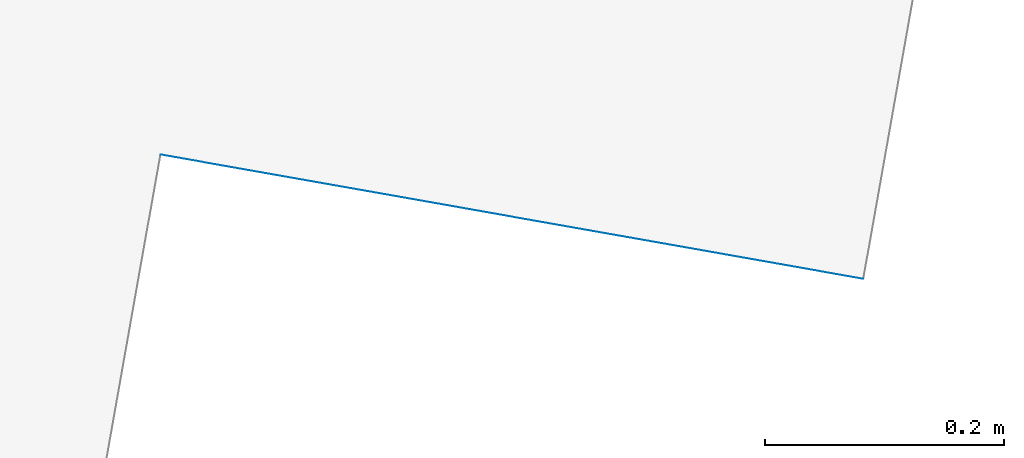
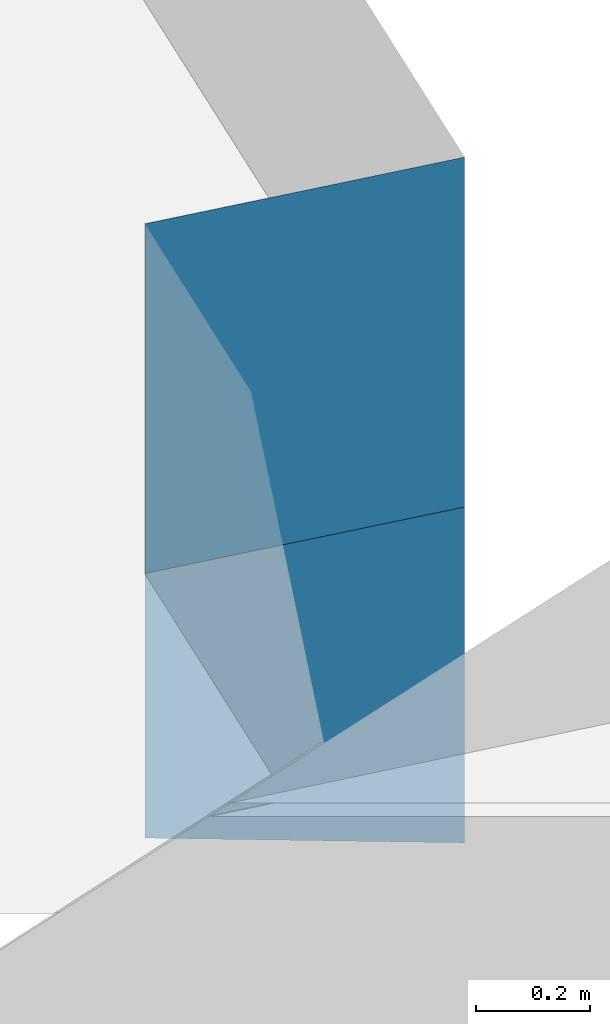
# Not in any storey, part 45 of 57: 3 walls.
"""IFC4 building model written with IfcOpenShell, lengths in metres."""

from ifc_helpers import new_model, entity, si_unit, converted_unit, frame, origin, place, context, subcontext, project, spatial, face_set, surface_model, element, save


model = new_model("IFC4")

# Units and contexts
model_context = context("Model", 3, precision=1e-05, world=origin())
body_context = subcontext(model_context, "Body", "Model", "MODEL_VIEW")
ifc_project = project(units=[converted_unit("PLANEANGLEUNIT", "DEGREE", entity("IfcRatioMeasure", 0.0174532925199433), si_unit("PLANEANGLEUNIT", "RADIAN"), dimensions=[0, 0, 0, 0, 0, 0, 0]), si_unit("AREAUNIT", "SQUARE_METRE"), si_unit("LENGTHUNIT", "METRE")], contexts=[model_context])

# Site, building
site_placement = place(None, origin())
site = spatial("IfcSite", under=ifc_project, at=site_placement, Name="_site")
building_placement = place(site_placement, origin())
building = spatial("IfcBuilding", under=site, at=building_placement, Name="_building")

# Walls
wall_placement = place(building_placement, origin())
element("IfcWall", 1, at=wall_placement, inside=building, Name="Wall", PredefinedType="NOTDEFINED", context=body_context, shape_type="SurfaceModel", body=[
    surface_model("IfcFaceBasedSurfaceModel", [(164.075, 102.917, 111.8), (163.487, 103.021, 111.8), (163.487, 103.021, 111.233), (164.075, 102.917, 111.08)], [face_set([[[0, 1, 2, 3]]])]),
])
for number, where, name in (
    (2, (0.0, 0.0, 0.0), "Wall"),
    (3, (0.0, 0.0, 0.0), "Wall"),
):
    element("IfcWall", number, at=place(building_placement, frame(where)), inside=building, Name=name, PredefinedType="NOTDEFINED", context=body_context, shape_type="SurfaceModel", body=[
        surface_model("IfcFaceBasedSurfaceModel", [(164.075, 102.917, 111.8), (163.487, 103.021, 111.8), (163.487, 103.021, 112.55), (164.075, 102.917, 112.55)], [face_set([[[0, 1, 2, 3]]])]),
    ])

save(model, "model.ifc")
